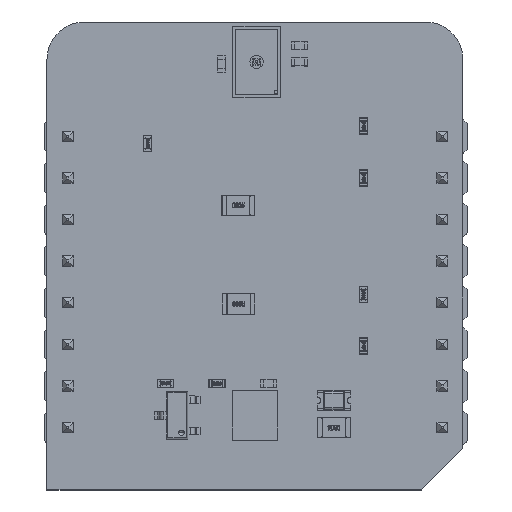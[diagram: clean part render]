
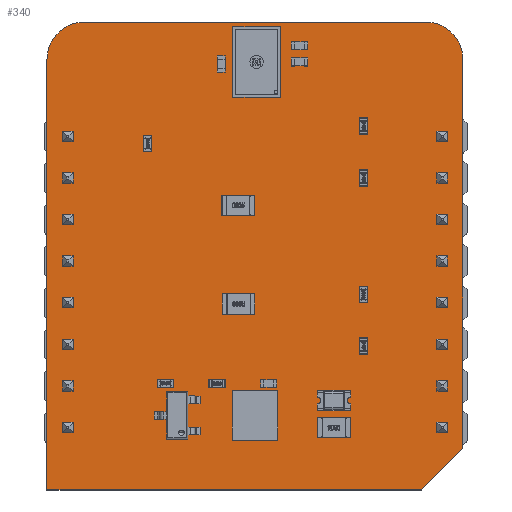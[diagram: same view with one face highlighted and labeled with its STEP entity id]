
A CAD part, top view. The second image highlights one B-rep face of the part: STEP entity #340.
In plain terms, the highlighted planar face has unit normal (0, 0, 1).
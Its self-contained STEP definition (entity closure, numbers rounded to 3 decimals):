
#111 = VERTEX_POINT('',#112);
#112 = CARTESIAN_POINT('',(-1.27,-3.81,0.));
#118 = EDGE_CURVE('',#111,#119,#121,.T.);
#119 = VERTEX_POINT('',#120);
#120 = CARTESIAN_POINT('',(-1.27,22.479,0.));
#121 = LINE('',#122,#123);
#122 = CARTESIAN_POINT('',(-1.27,-3.81,0.));
#123 = VECTOR('',#124,1.);
#124 = DIRECTION('',(0.,1.,0.));
#149 = EDGE_CURVE('',#119,#150,#152,.T.);
#150 = VERTEX_POINT('',#151);
#151 = CARTESIAN_POINT('',(1.016,24.765,0.));
#152 = CIRCLE('',#153,2.288);
#153 = AXIS2_PLACEMENT_3D('',#154,#155,#156);
#154 = CARTESIAN_POINT('',(1.018,22.477,0.));
#155 = DIRECTION('',(0.,0.,-1.));
#156 = DIRECTION('',(-1.,0.001,0.));
#182 = EDGE_CURVE('',#150,#183,#185,.T.);
#183 = VERTEX_POINT('',#184);
#184 = CARTESIAN_POINT('',(21.844,24.765,0.));
#185 = LINE('',#186,#187);
#186 = CARTESIAN_POINT('',(1.016,24.765,0.));
#187 = VECTOR('',#188,1.);
#188 = DIRECTION('',(1.,0.,0.));
#213 = EDGE_CURVE('',#183,#214,#216,.T.);
#214 = VERTEX_POINT('',#215);
#215 = CARTESIAN_POINT('',(24.13,22.479,0.));
#216 = CIRCLE('',#217,2.288);
#217 = AXIS2_PLACEMENT_3D('',#218,#219,#220);
#218 = CARTESIAN_POINT('',(21.842,22.477,0.));
#219 = DIRECTION('',(0.,0.,-1.));
#220 = DIRECTION('',(0.001,1.,0.));
#246 = EDGE_CURVE('',#214,#247,#249,.T.);
#247 = VERTEX_POINT('',#248);
#248 = CARTESIAN_POINT('',(24.13,-1.27,0.));
#249 = LINE('',#250,#251);
#250 = CARTESIAN_POINT('',(24.13,22.479,0.));
#251 = VECTOR('',#252,1.);
#252 = DIRECTION('',(0.,-1.,0.));
#277 = EDGE_CURVE('',#247,#278,#280,.T.);
#278 = VERTEX_POINT('',#279);
#279 = CARTESIAN_POINT('',(21.59,-3.81,0.));
#280 = LINE('',#281,#282);
#281 = CARTESIAN_POINT('',(24.13,-1.27,0.));
#282 = VECTOR('',#283,1.);
#283 = DIRECTION('',(-0.707,-0.707,0.));
#308 = EDGE_CURVE('',#278,#111,#309,.T.);
#309 = LINE('',#310,#311);
#310 = CARTESIAN_POINT('',(21.59,-3.81,0.));
#311 = VECTOR('',#312,1.);
#312 = DIRECTION('',(-1.,0.,0.));
#340 = ADVANCED_FACE('',(#341),#350,.T.);
#341 = FACE_BOUND('',#342,.F.);
#342 = EDGE_LOOP('',(#343,#344,#345,#346,#347,#348,#349));
#343 = ORIENTED_EDGE('',*,*,#118,.T.);
#344 = ORIENTED_EDGE('',*,*,#149,.T.);
#345 = ORIENTED_EDGE('',*,*,#182,.T.);
#346 = ORIENTED_EDGE('',*,*,#213,.T.);
#347 = ORIENTED_EDGE('',*,*,#246,.T.);
#348 = ORIENTED_EDGE('',*,*,#277,.T.);
#349 = ORIENTED_EDGE('',*,*,#308,.T.);
#350 = PLANE('',#351);
#351 = AXIS2_PLACEMENT_3D('',#352,#353,#354);
#352 = CARTESIAN_POINT('',(-1.27,-3.81,0.));
#353 = DIRECTION('',(0.,0.,1.));
#354 = DIRECTION('',(1.,0.,0.));
